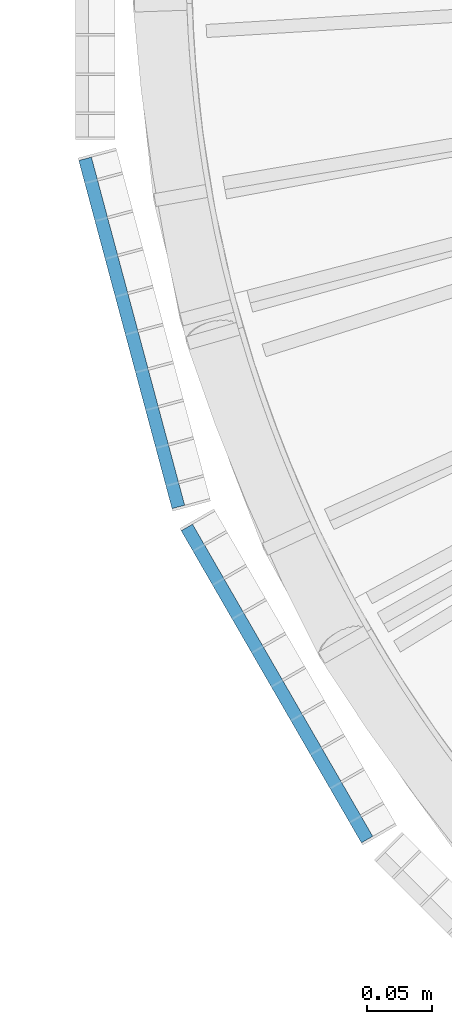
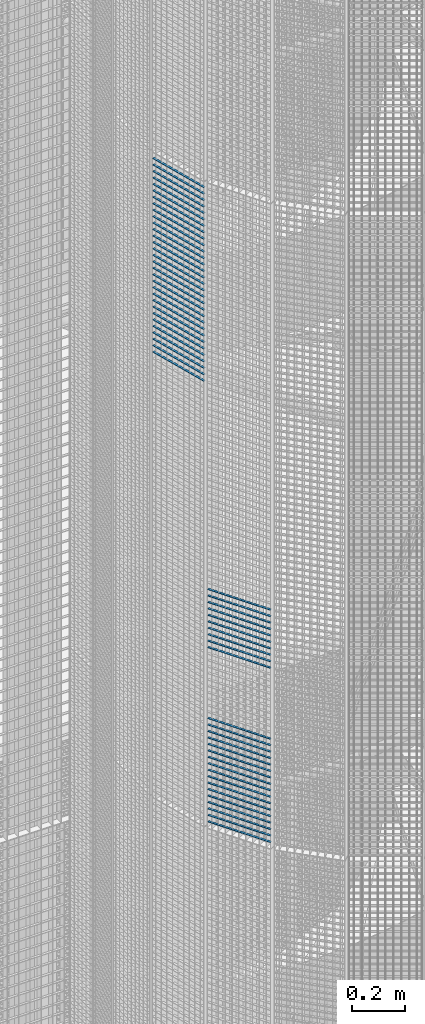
# One storey, part 112 of 1183: 58 beams, 2 elements without a shape of their own.
"""IFC2X3 building model written with IfcOpenShell, lengths in millimetres."""

from ifc_helpers import new_model, si_unit, frame, origin_with_axes, origin_2d_with_axis, place, context, subcontext, project, spatial, rectangle, extrude, material, type_object, element, aggregate, save


model = new_model("IFC2X3")

# Units and contexts
model_context = context("Model", 3, precision=1e-05, world=origin_with_axes())
body_context = subcontext(model_context, "Body", "Model", "MODEL_VIEW")
ifc_project = project(units=[si_unit("LENGTHUNIT", "METRE", prefix="MILLI"), si_unit("AREAUNIT", "SQUARE_METRE"), si_unit("VOLUMEUNIT", "CUBIC_METRE"), si_unit("MASSUNIT", "GRAM", prefix="KILO"), si_unit("TIMEUNIT", "SECOND"), si_unit("PLANEANGLEUNIT", "RADIAN"), si_unit("SOLIDANGLEUNIT", "STERADIAN"), si_unit("THERMODYNAMICTEMPERATUREUNIT", "DEGREE_CELSIUS"), si_unit("LUMINOUSINTENSITYUNIT", "LUMEN")], contexts=[model_context])

# Site, building, storey
site_placement = place(None, origin_with_axes())
site = spatial("IfcSite", under=ifc_project, at=site_placement, Name="Undefined", CompositionType="ELEMENT")
building_placement = place(site_placement, origin_with_axes())
building = spatial("IfcBuilding", under=site, at=building_placement, Name="Undefined", CompositionType="ELEMENT")
storey_placement = place(building_placement, origin_with_axes())
storey = spatial("IfcBuildingStorey", under=building, at=storey_placement, Name="Undefined", CompositionType="ELEMENT", Elevation=0.0)

# Assembly, beams
assembly_1_placement = place(storey_placement, origin_with_axes())
assembly_1 = element("IfcElementAssembly", 1, at=assembly_1_placement, inside=storey, Name="BORDURE", AssemblyPlace="NOTDEFINED", PredefinedType="NOTDEFINED")
ifc_material = material(Name="STEEL/S235JR")
beam_type = type_object("IfcBeamType", Name="PL2*10", PredefinedType="NOTDEFINED")
beam_1_placement = place(assembly_1_placement, frame((-1033.29996828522, -437.231955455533, 12840.0), z_axis=(-0.866025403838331, -0.499999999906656, 0.0), x_axis=(0.499999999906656, -0.866025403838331, 0.0)))
beam_1 = element("IfcBeam", 2, at=beam_1_placement, type_object=beam_type, material=ifc_material, Name="ENTRETOISE", context=body_context, shape_type="SweptSolid", body=[
    extrude(rectangle(XDim=2.0, YDim=10.0, at=origin_2d_with_axis()), frame((275.999999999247, 9.09494701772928e-13, 1.53210777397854e-14), z_axis=(-1.0, 0.0, 0.0), x_axis=(0.0, -1.0, 0.0)), (0.0, 0.0, 1.0), 276.0),
])
beam_2_placement = place(assembly_1_placement, frame((-1033.29996828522, -437.231955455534, 12510.0), z_axis=(-0.866025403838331, -0.499999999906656, 0.0), x_axis=(0.499999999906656, -0.866025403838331, 0.0)))
beam_2 = element("IfcBeam", 3, at=beam_2_placement, type_object=beam_type, material=ifc_material, Name="ENTRETOISE", context=body_context, shape_type="SweptSolid", body=[
    extrude(rectangle(XDim=2.0, YDim=10.0, at=origin_2d_with_axis()), frame((275.999999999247, 9.09494701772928e-13, 1.53210777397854e-14), z_axis=(-1.0, 0.0, 0.0), x_axis=(0.0, -1.0, 0.0)), (0.0, 0.0, 1.0), 276.0),
])
beam_3_placement = place(assembly_1_placement, frame((-1033.29996828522, -437.231955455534, 12480.0), z_axis=(-0.866025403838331, -0.499999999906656, 0.0), x_axis=(0.499999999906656, -0.866025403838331, 0.0)))
beam_3 = element("IfcBeam", 4, at=beam_3_placement, type_object=beam_type, material=ifc_material, Name="ENTRETOISE", context=body_context, shape_type="SweptSolid", body=[
    extrude(rectangle(XDim=2.0, YDim=10.0, at=origin_2d_with_axis()), frame((275.999999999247, 9.09494701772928e-13, 1.53210777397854e-14), z_axis=(-1.0, 0.0, 0.0), x_axis=(0.0, -1.0, 0.0)), (0.0, 0.0, 1.0), 276.0),
])
beam_4_placement = place(assembly_1_placement, frame((-1033.29996828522, -437.231955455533, 12870.0), z_axis=(-0.866025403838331, -0.499999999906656, 0.0), x_axis=(0.499999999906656, -0.866025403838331, 0.0)))
beam_4 = element("IfcBeam", 5, at=beam_4_placement, type_object=beam_type, material=ifc_material, Name="ENTRETOISE", context=body_context, shape_type="SweptSolid", body=[
    extrude(rectangle(XDim=2.0, YDim=10.0, at=origin_2d_with_axis()), frame((275.999999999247, 9.09494701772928e-13, 1.53210777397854e-14), z_axis=(-1.0, 0.0, 0.0), x_axis=(0.0, -1.0, 0.0)), (0.0, 0.0, 1.0), 276.0),
])
beam_5_placement = place(assembly_1_placement, frame((-1033.29996828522, -437.231955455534, 12450.0), z_axis=(-0.866025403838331, -0.499999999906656, 0.0), x_axis=(0.499999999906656, -0.866025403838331, 0.0)))
beam_5 = element("IfcBeam", 6, at=beam_5_placement, type_object=beam_type, material=ifc_material, Name="ENTRETOISE", context=body_context, shape_type="SweptSolid", body=[
    extrude(rectangle(XDim=2.0, YDim=10.0, at=origin_2d_with_axis()), frame((275.999999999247, 9.09494701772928e-13, 1.53210777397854e-14), z_axis=(-1.0, 0.0, 0.0), x_axis=(0.0, -1.0, 0.0)), (0.0, 0.0, 1.0), 276.0),
])
beam_6_placement = place(assembly_1_placement, frame((-1033.29996828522, -437.231955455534, 12420.0), z_axis=(-0.866025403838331, -0.499999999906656, 0.0), x_axis=(0.499999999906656, -0.866025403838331, 0.0)))
beam_6 = element("IfcBeam", 7, at=beam_6_placement, type_object=beam_type, material=ifc_material, Name="ENTRETOISE", context=body_context, shape_type="SweptSolid", body=[
    extrude(rectangle(XDim=2.0, YDim=10.0, at=origin_2d_with_axis()), frame((275.999999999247, 9.09494701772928e-13, 1.53210777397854e-14), z_axis=(-1.0, 0.0, 0.0), x_axis=(0.0, -1.0, 0.0)), (0.0, 0.0, 1.0), 276.0),
])
beam_7_placement = place(assembly_1_placement, frame((-1033.29996828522, -437.231955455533, 12900.0), z_axis=(-0.866025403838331, -0.499999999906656, 0.0), x_axis=(0.499999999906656, -0.866025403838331, 0.0)))
beam_7 = element("IfcBeam", 8, at=beam_7_placement, type_object=beam_type, material=ifc_material, Name="ENTRETOISE", context=body_context, shape_type="SweptSolid", body=[
    extrude(rectangle(XDim=2.0, YDim=10.0, at=origin_2d_with_axis()), frame((275.999999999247, 9.09494701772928e-13, 1.53210777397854e-14), z_axis=(-1.0, 0.0, 0.0), x_axis=(0.0, -1.0, 0.0)), (0.0, 0.0, 1.0), 276.0),
])
beam_8_placement = place(assembly_1_placement, frame((-1033.29996828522, -437.231955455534, 12390.0), z_axis=(-0.866025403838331, -0.499999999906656, 0.0), x_axis=(0.499999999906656, -0.866025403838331, 0.0)))
beam_8 = element("IfcBeam", 9, at=beam_8_placement, type_object=beam_type, material=ifc_material, Name="ENTRETOISE", context=body_context, shape_type="SweptSolid", body=[
    extrude(rectangle(XDim=2.0, YDim=10.0, at=origin_2d_with_axis()), frame((275.999999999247, 9.09494701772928e-13, 1.53210777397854e-14), z_axis=(-1.0, 0.0, 0.0), x_axis=(0.0, -1.0, 0.0)), (0.0, 0.0, 1.0), 276.0),
])
beam_9_placement = place(assembly_1_placement, frame((-1033.29996828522, -437.231955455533, 12930.0), z_axis=(-0.866025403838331, -0.499999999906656, 0.0), x_axis=(0.499999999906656, -0.866025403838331, 0.0)))
beam_9 = element("IfcBeam", 10, at=beam_9_placement, type_object=beam_type, material=ifc_material, Name="ENTRETOISE", context=body_context, shape_type="SweptSolid", body=[
    extrude(rectangle(XDim=2.0, YDim=10.0, at=origin_2d_with_axis()), frame((275.999999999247, 9.09494701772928e-13, 1.53210777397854e-14), z_axis=(-1.0, 0.0, 0.0), x_axis=(0.0, -1.0, 0.0)), (0.0, 0.0, 1.0), 276.0),
])
beam_10_placement = place(assembly_1_placement, frame((-1033.29996828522, -437.231955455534, 12360.0), z_axis=(-0.866025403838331, -0.499999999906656, 0.0), x_axis=(0.499999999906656, -0.866025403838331, 0.0)))
beam_10 = element("IfcBeam", 11, at=beam_10_placement, type_object=beam_type, material=ifc_material, Name="ENTRETOISE", context=body_context, shape_type="SweptSolid", body=[
    extrude(rectangle(XDim=2.0, YDim=10.0, at=origin_2d_with_axis()), frame((275.999999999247, 9.09494701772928e-13, 1.53210777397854e-14), z_axis=(-1.0, 0.0, 0.0), x_axis=(0.0, -1.0, 0.0)), (0.0, 0.0, 1.0), 276.0),
])
beam_11_placement = place(assembly_1_placement, frame((-1033.29996828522, -437.231955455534, 12330.0), z_axis=(-0.866025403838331, -0.499999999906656, 0.0), x_axis=(0.499999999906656, -0.866025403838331, 0.0)))
beam_11 = element("IfcBeam", 12, at=beam_11_placement, type_object=beam_type, material=ifc_material, Name="ENTRETOISE", context=body_context, shape_type="SweptSolid", body=[
    extrude(rectangle(XDim=2.0, YDim=10.0, at=origin_2d_with_axis()), frame((275.999999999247, 9.09494701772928e-13, 1.53210777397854e-14), z_axis=(-1.0, 0.0, 0.0), x_axis=(0.0, -1.0, 0.0)), (0.0, 0.0, 1.0), 276.0),
])
beam_12_placement = place(assembly_1_placement, frame((-1033.29996828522, -437.231955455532, 12960.0), z_axis=(-0.866025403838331, -0.499999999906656, 0.0), x_axis=(0.499999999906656, -0.866025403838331, 0.0)))
beam_12 = element("IfcBeam", 13, at=beam_12_placement, type_object=beam_type, material=ifc_material, Name="ENTRETOISE", context=body_context, shape_type="SweptSolid", body=[
    extrude(rectangle(XDim=2.0, YDim=10.0, at=origin_2d_with_axis()), frame((275.999999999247, 9.09494701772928e-13, 1.53210777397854e-14), z_axis=(-1.0, 0.0, 0.0), x_axis=(0.0, -1.0, 0.0)), (0.0, 0.0, 1.0), 276.0),
])
beam_13_placement = place(assembly_1_placement, frame((-1033.29996828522, -437.231955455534, 12300.0), z_axis=(-0.866025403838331, -0.499999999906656, 0.0), x_axis=(0.499999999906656, -0.866025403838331, 0.0)))
beam_13 = element("IfcBeam", 14, at=beam_13_placement, type_object=beam_type, material=ifc_material, Name="ENTRETOISE", context=body_context, shape_type="SweptSolid", body=[
    extrude(rectangle(XDim=2.0, YDim=10.0, at=origin_2d_with_axis()), frame((275.999999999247, 9.09494701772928e-13, 1.53210777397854e-14), z_axis=(-1.0, 0.0, 0.0), x_axis=(0.0, -1.0, 0.0)), (0.0, 0.0, 1.0), 276.0),
])
beam_14_placement = place(assembly_1_placement, frame((-1033.29996828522, -437.231955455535, 12270.0), z_axis=(-0.866025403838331, -0.499999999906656, 0.0), x_axis=(0.499999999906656, -0.866025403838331, 0.0)))
beam_14 = element("IfcBeam", 15, at=beam_14_placement, type_object=beam_type, material=ifc_material, Name="ENTRETOISE", context=body_context, shape_type="SweptSolid", body=[
    extrude(rectangle(XDim=2.0, YDim=10.0, at=origin_2d_with_axis()), frame((275.999999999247, 9.09494701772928e-13, 1.53210777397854e-14), z_axis=(-1.0, 0.0, 0.0), x_axis=(0.0, -1.0, 0.0)), (0.0, 0.0, 1.0), 276.0),
])
beam_15_placement = place(assembly_1_placement, frame((-1033.29996828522, -437.231955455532, 12990.0), z_axis=(-0.866025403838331, -0.499999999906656, 0.0), x_axis=(0.499999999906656, -0.866025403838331, 0.0)))
beam_15 = element("IfcBeam", 16, at=beam_15_placement, type_object=beam_type, material=ifc_material, Name="ENTRETOISE", context=body_context, shape_type="SweptSolid", body=[
    extrude(rectangle(XDim=2.0, YDim=10.0, at=origin_2d_with_axis()), frame((275.999999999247, 9.09494701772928e-13, 1.53210777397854e-14), z_axis=(-1.0, 0.0, 0.0), x_axis=(0.0, -1.0, 0.0)), (0.0, 0.0, 1.0), 276.0),
])
beam_16_placement = place(assembly_1_placement, frame((-1033.29996828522, -437.231955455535, 12240.0), z_axis=(-0.866025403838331, -0.499999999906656, 0.0), x_axis=(0.499999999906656, -0.866025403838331, 0.0)))
beam_16 = element("IfcBeam", 17, at=beam_16_placement, type_object=beam_type, material=ifc_material, Name="ENTRETOISE", context=body_context, shape_type="SweptSolid", body=[
    extrude(rectangle(XDim=2.0, YDim=10.0, at=origin_2d_with_axis()), frame((275.999999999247, 9.09494701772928e-13, 1.53210777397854e-14), z_axis=(-1.0, 0.0, 0.0), x_axis=(0.0, -1.0, 0.0)), (0.0, 0.0, 1.0), 276.0),
])
beam_17_placement = place(assembly_1_placement, frame((-1033.29996828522, -437.231955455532, 13020.0), z_axis=(-0.866025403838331, -0.499999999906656, 0.0), x_axis=(0.499999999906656, -0.866025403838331, 0.0)))
beam_17 = element("IfcBeam", 18, at=beam_17_placement, type_object=beam_type, material=ifc_material, Name="ENTRETOISE", context=body_context, shape_type="SweptSolid", body=[
    extrude(rectangle(XDim=2.0, YDim=10.0, at=origin_2d_with_axis()), frame((275.999999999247, 9.09494701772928e-13, 1.53210777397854e-14), z_axis=(-1.0, 0.0, 0.0), x_axis=(0.0, -1.0, 0.0)), (0.0, 0.0, 1.0), 276.0),
])
beam_18_placement = place(assembly_1_placement, frame((-1033.29996828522, -437.231955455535, 12210.0), z_axis=(-0.866025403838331, -0.499999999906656, 0.0), x_axis=(0.499999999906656, -0.866025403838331, 0.0)))
beam_18 = element("IfcBeam", 19, at=beam_18_placement, type_object=beam_type, material=ifc_material, Name="ENTRETOISE", context=body_context, shape_type="SweptSolid", body=[
    extrude(rectangle(XDim=2.0, YDim=10.0, at=origin_2d_with_axis()), frame((275.999999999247, 9.09494701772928e-13, 1.53210777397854e-14), z_axis=(-1.0, 0.0, 0.0), x_axis=(0.0, -1.0, 0.0)), (0.0, 0.0, 1.0), 276.0),
])
beam_19_placement = place(assembly_1_placement, frame((-1033.29996828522, -437.231955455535, 12180.0), z_axis=(-0.866025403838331, -0.499999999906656, 0.0), x_axis=(0.499999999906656, -0.866025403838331, 0.0)))
beam_19 = element("IfcBeam", 20, at=beam_19_placement, type_object=beam_type, material=ifc_material, Name="ENTRETOISE", context=body_context, shape_type="SweptSolid", body=[
    extrude(rectangle(XDim=2.0, YDim=10.0, at=origin_2d_with_axis()), frame((275.999999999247, 9.09494701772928e-13, 1.53210777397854e-14), z_axis=(-1.0, 0.0, 0.0), x_axis=(0.0, -1.0, 0.0)), (0.0, 0.0, 1.0), 276.0),
])
beam_20_placement = place(assembly_1_placement, frame((-1033.29996828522, -437.231955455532, 13050.0), z_axis=(-0.866025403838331, -0.499999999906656, 0.0), x_axis=(0.499999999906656, -0.866025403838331, 0.0)))
beam_20 = element("IfcBeam", 21, at=beam_20_placement, type_object=beam_type, material=ifc_material, Name="ENTRETOISE", context=body_context, shape_type="SweptSolid", body=[
    extrude(rectangle(XDim=2.0, YDim=10.0, at=origin_2d_with_axis()), frame((275.999999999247, 9.09494701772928e-13, 1.53210777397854e-14), z_axis=(-1.0, 0.0, 0.0), x_axis=(0.0, -1.0, 0.0)), (0.0, 0.0, 1.0), 276.0),
])
beam_21_placement = place(assembly_1_placement, frame((-1033.29996828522, -437.231955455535, 12150.0), z_axis=(-0.866025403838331, -0.499999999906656, 0.0), x_axis=(0.499999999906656, -0.866025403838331, 0.0)))
beam_21 = element("IfcBeam", 22, at=beam_21_placement, type_object=beam_type, material=ifc_material, Name="ENTRETOISE", context=body_context, shape_type="SweptSolid", body=[
    extrude(rectangle(XDim=2.0, YDim=10.0, at=origin_2d_with_axis()), frame((275.999999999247, 9.09494701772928e-13, 1.53210777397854e-14), z_axis=(-1.0, 0.0, 0.0), x_axis=(0.0, -1.0, 0.0)), (0.0, 0.0, 1.0), 276.0),
])
beam_22_placement = place(assembly_1_placement, frame((-1033.29996828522, -437.231955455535, 12120.0), z_axis=(-0.866025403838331, -0.499999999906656, 0.0), x_axis=(0.499999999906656, -0.866025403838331, 0.0)))
beam_22 = element("IfcBeam", 23, at=beam_22_placement, type_object=beam_type, material=ifc_material, Name="ENTRETOISE", context=body_context, shape_type="SweptSolid", body=[
    extrude(rectangle(XDim=2.0, YDim=10.0, at=origin_2d_with_axis()), frame((275.999999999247, 9.09494701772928e-13, 1.53210777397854e-14), z_axis=(-1.0, 0.0, 0.0), x_axis=(0.0, -1.0, 0.0)), (0.0, 0.0, 1.0), 276.0),
])
beam_23_placement = place(assembly_1_placement, frame((-1033.29996828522, -437.231955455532, 13080.0), z_axis=(-0.866025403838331, -0.499999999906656, 0.0), x_axis=(0.499999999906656, -0.866025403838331, 0.0)))
beam_23 = element("IfcBeam", 24, at=beam_23_placement, type_object=beam_type, material=ifc_material, Name="ENTRETOISE", context=body_context, shape_type="SweptSolid", body=[
    extrude(rectangle(XDim=2.0, YDim=10.0, at=origin_2d_with_axis()), frame((275.999999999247, 9.09494701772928e-13, 1.53210777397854e-14), z_axis=(-1.0, 0.0, 0.0), x_axis=(0.0, -1.0, 0.0)), (0.0, 0.0, 1.0), 276.0),
])
beam_24_placement = place(assembly_1_placement, frame((-1033.29996828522, -437.231955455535, 12090.0), z_axis=(-0.866025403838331, -0.499999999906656, 0.0), x_axis=(0.499999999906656, -0.866025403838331, 0.0)))
beam_24 = element("IfcBeam", 25, at=beam_24_placement, type_object=beam_type, material=ifc_material, Name="ENTRETOISE", context=body_context, shape_type="SweptSolid", body=[
    extrude(rectangle(XDim=2.0, YDim=10.0, at=origin_2d_with_axis()), frame((275.999999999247, 9.09494701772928e-13, 1.53210777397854e-14), z_axis=(-1.0, 0.0, 0.0), x_axis=(0.0, -1.0, 0.0)), (0.0, 0.0, 1.0), 276.0),
])
beam_25_placement = place(assembly_1_placement, frame((-1033.29996828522, -437.231955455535, 12060.0), z_axis=(-0.866025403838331, -0.499999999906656, 0.0), x_axis=(0.499999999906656, -0.866025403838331, 0.0)))
beam_25 = element("IfcBeam", 26, at=beam_25_placement, type_object=beam_type, material=ifc_material, Name="ENTRETOISE", context=body_context, shape_type="SweptSolid", body=[
    extrude(rectangle(XDim=2.0, YDim=10.0, at=origin_2d_with_axis()), frame((275.999999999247, 9.09494701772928e-13, 1.53210777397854e-14), z_axis=(-1.0, 0.0, 0.0), x_axis=(0.0, -1.0, 0.0)), (0.0, 0.0, 1.0), 276.0),
])
beam_26_placement = place(assembly_1_placement, frame((-1033.29996828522, -437.231955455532, 13110.0), z_axis=(-0.866025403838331, -0.499999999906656, 0.0), x_axis=(0.499999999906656, -0.866025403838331, 0.0)))
beam_26 = element("IfcBeam", 27, at=beam_26_placement, type_object=beam_type, material=ifc_material, Name="ENTRETOISE", context=body_context, shape_type="SweptSolid", body=[
    extrude(rectangle(XDim=2.0, YDim=10.0, at=origin_2d_with_axis()), frame((275.999999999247, 9.09494701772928e-13, 1.53210777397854e-14), z_axis=(-1.0, 0.0, 0.0), x_axis=(0.0, -1.0, 0.0)), (0.0, 0.0, 1.0), 276.0),
])
beam_27_placement = place(assembly_1_placement, frame((-1033.29996828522, -437.231955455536, 12030.0), z_axis=(-0.866025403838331, -0.499999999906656, 0.0), x_axis=(0.499999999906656, -0.866025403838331, 0.0)))
beam_27 = element("IfcBeam", 28, at=beam_27_placement, type_object=beam_type, material=ifc_material, Name="ENTRETOISE", context=body_context, shape_type="SweptSolid", body=[
    extrude(rectangle(XDim=2.0, YDim=10.0, at=origin_2d_with_axis()), frame((275.999999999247, 9.09494701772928e-13, 1.53210777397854e-14), z_axis=(-1.0, 0.0, 0.0), x_axis=(0.0, -1.0, 0.0)), (0.0, 0.0, 1.0), 276.0),
])
aggregate(assembly_1, [beam_1, beam_2, beam_3, beam_4, beam_5, beam_6, beam_7, beam_8, beam_9, beam_10, beam_11, beam_12, beam_13, beam_14, beam_15, beam_16, beam_17, beam_18, beam_19, beam_20, beam_21, beam_22, beam_23, beam_24, beam_25, beam_26, beam_27])

assembly_2_placement = place(storey_placement, origin_with_axes())
assembly_2 = element("IfcElementAssembly", 29, at=assembly_2_placement, inside=storey, Name="BORDURE", AssemblyPlace="NOTDEFINED", PredefinedType="NOTDEFINED")
beam_28_placement = place(assembly_2_placement, frame((-1111.25508286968, -154.895926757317, 14970.0), z_axis=(-0.965925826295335, -0.258819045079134, 0.0), x_axis=(0.258819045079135, -0.965925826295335, 0.0)))
beam_28 = element("IfcBeam", 30, at=beam_28_placement, type_object=beam_type, material=ifc_material, Name="ENTRETOISE", context=body_context, shape_type="SweptSolid", body=[
    extrude(rectangle(XDim=2.0, YDim=10.0, at=origin_2d_with_axis()), frame((275.999999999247, 9.09494701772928e-13, 1.53210777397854e-14), z_axis=(-1.0, 0.0, 0.0), x_axis=(0.0, -1.0, 0.0)), (0.0, 0.0, 1.0), 276.0),
])
beam_29_placement = place(assembly_2_placement, frame((-1111.25508286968, -154.895926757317, 14940.0), z_axis=(-0.965925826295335, -0.258819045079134, 0.0), x_axis=(0.258819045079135, -0.965925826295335, 0.0)))
beam_29 = element("IfcBeam", 31, at=beam_29_placement, type_object=beam_type, material=ifc_material, Name="ENTRETOISE", context=body_context, shape_type="SweptSolid", body=[
    extrude(rectangle(XDim=2.0, YDim=10.0, at=origin_2d_with_axis()), frame((275.999999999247, 9.09494701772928e-13, 1.53210777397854e-14), z_axis=(-1.0, 0.0, 0.0), x_axis=(0.0, -1.0, 0.0)), (0.0, 0.0, 1.0), 276.0),
])
beam_30_placement = place(assembly_2_placement, frame((-1111.25508286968, -154.895926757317, 14910.0), z_axis=(-0.965925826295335, -0.258819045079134, 0.0), x_axis=(0.258819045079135, -0.965925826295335, 0.0)))
beam_30 = element("IfcBeam", 32, at=beam_30_placement, type_object=beam_type, material=ifc_material, Name="ENTRETOISE", context=body_context, shape_type="SweptSolid", body=[
    extrude(rectangle(XDim=2.0, YDim=10.0, at=origin_2d_with_axis()), frame((275.999999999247, 9.09494701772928e-13, 1.53210777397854e-14), z_axis=(-1.0, 0.0, 0.0), x_axis=(0.0, -1.0, 0.0)), (0.0, 0.0, 1.0), 276.0),
])
beam_31_placement = place(assembly_2_placement, frame((-1111.25508286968, -154.895926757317, 14880.0), z_axis=(-0.965925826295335, -0.258819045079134, 0.0), x_axis=(0.258819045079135, -0.965925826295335, 0.0)))
beam_31 = element("IfcBeam", 33, at=beam_31_placement, type_object=beam_type, material=ifc_material, Name="ENTRETOISE", context=body_context, shape_type="SweptSolid", body=[
    extrude(rectangle(XDim=2.0, YDim=10.0, at=origin_2d_with_axis()), frame((275.999999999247, 9.09494701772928e-13, 1.53210777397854e-14), z_axis=(-1.0, 0.0, 0.0), x_axis=(0.0, -1.0, 0.0)), (0.0, 0.0, 1.0), 276.0),
])
beam_32_placement = place(assembly_2_placement, frame((-1111.25508286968, -154.895926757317, 14850.0), z_axis=(-0.965925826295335, -0.258819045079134, 0.0), x_axis=(0.258819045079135, -0.965925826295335, 0.0)))
beam_32 = element("IfcBeam", 34, at=beam_32_placement, type_object=beam_type, material=ifc_material, Name="ENTRETOISE", context=body_context, shape_type="SweptSolid", body=[
    extrude(rectangle(XDim=2.0, YDim=10.0, at=origin_2d_with_axis()), frame((275.999999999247, 9.09494701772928e-13, 1.53210777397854e-14), z_axis=(-1.0, 0.0, 0.0), x_axis=(0.0, -1.0, 0.0)), (0.0, 0.0, 1.0), 276.0),
])
beam_33_placement = place(assembly_2_placement, frame((-1111.25508286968, -154.895926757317, 14820.0), z_axis=(-0.965925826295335, -0.258819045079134, 0.0), x_axis=(0.258819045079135, -0.965925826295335, 0.0)))
beam_33 = element("IfcBeam", 35, at=beam_33_placement, type_object=beam_type, material=ifc_material, Name="ENTRETOISE", context=body_context, shape_type="SweptSolid", body=[
    extrude(rectangle(XDim=2.0, YDim=10.0, at=origin_2d_with_axis()), frame((275.999999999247, 9.09494701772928e-13, 1.53210777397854e-14), z_axis=(-1.0, 0.0, 0.0), x_axis=(0.0, -1.0, 0.0)), (0.0, 0.0, 1.0), 276.0),
])
beam_34_placement = place(assembly_2_placement, frame((-1111.25508286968, -154.895926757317, 14790.0), z_axis=(-0.965925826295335, -0.258819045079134, 0.0), x_axis=(0.258819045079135, -0.965925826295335, 0.0)))
beam_34 = element("IfcBeam", 36, at=beam_34_placement, type_object=beam_type, material=ifc_material, Name="ENTRETOISE", context=body_context, shape_type="SweptSolid", body=[
    extrude(rectangle(XDim=2.0, YDim=10.0, at=origin_2d_with_axis()), frame((275.999999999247, 9.09494701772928e-13, 1.53210777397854e-14), z_axis=(-1.0, 0.0, 0.0), x_axis=(0.0, -1.0, 0.0)), (0.0, 0.0, 1.0), 276.0),
])
beam_35_placement = place(assembly_2_placement, frame((-1111.25508286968, -154.895926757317, 14760.0), z_axis=(-0.965925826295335, -0.258819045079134, 0.0), x_axis=(0.258819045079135, -0.965925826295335, 0.0)))
beam_35 = element("IfcBeam", 37, at=beam_35_placement, type_object=beam_type, material=ifc_material, Name="ENTRETOISE", context=body_context, shape_type="SweptSolid", body=[
    extrude(rectangle(XDim=2.0, YDim=10.0, at=origin_2d_with_axis()), frame((275.999999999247, 9.09494701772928e-13, 1.53210777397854e-14), z_axis=(-1.0, 0.0, 0.0), x_axis=(0.0, -1.0, 0.0)), (0.0, 0.0, 1.0), 276.0),
])
beam_36_placement = place(assembly_2_placement, frame((-1111.25508286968, -154.895926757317, 14730.0), z_axis=(-0.965925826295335, -0.258819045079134, 0.0), x_axis=(0.258819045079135, -0.965925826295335, 0.0)))
beam_36 = element("IfcBeam", 38, at=beam_36_placement, type_object=beam_type, material=ifc_material, Name="ENTRETOISE", context=body_context, shape_type="SweptSolid", body=[
    extrude(rectangle(XDim=2.0, YDim=10.0, at=origin_2d_with_axis()), frame((275.999999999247, 9.09494701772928e-13, 1.53210777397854e-14), z_axis=(-1.0, 0.0, 0.0), x_axis=(0.0, -1.0, 0.0)), (0.0, 0.0, 1.0), 276.0),
])
beam_37_placement = place(assembly_2_placement, frame((-1111.25508286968, -154.895926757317, 14700.0), z_axis=(-0.965925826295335, -0.258819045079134, 0.0), x_axis=(0.258819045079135, -0.965925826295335, 0.0)))
beam_37 = element("IfcBeam", 39, at=beam_37_placement, type_object=beam_type, material=ifc_material, Name="ENTRETOISE", context=body_context, shape_type="SweptSolid", body=[
    extrude(rectangle(XDim=2.0, YDim=10.0, at=origin_2d_with_axis()), frame((275.999999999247, 9.09494701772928e-13, 1.53210777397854e-14), z_axis=(-1.0, 0.0, 0.0), x_axis=(0.0, -1.0, 0.0)), (0.0, 0.0, 1.0), 276.0),
])
beam_38_placement = place(assembly_2_placement, frame((-1111.25508286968, -154.895926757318, 14670.0), z_axis=(-0.965925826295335, -0.258819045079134, 0.0), x_axis=(0.258819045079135, -0.965925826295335, 0.0)))
beam_38 = element("IfcBeam", 40, at=beam_38_placement, type_object=beam_type, material=ifc_material, Name="ENTRETOISE", context=body_context, shape_type="SweptSolid", body=[
    extrude(rectangle(XDim=2.0, YDim=10.0, at=origin_2d_with_axis()), frame((275.999999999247, 9.09494701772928e-13, 1.53210777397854e-14), z_axis=(-1.0, 0.0, 0.0), x_axis=(0.0, -1.0, 0.0)), (0.0, 0.0, 1.0), 276.0),
])
beam_39_placement = place(assembly_2_placement, frame((-1111.25508286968, -154.895926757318, 14640.0), z_axis=(-0.965925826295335, -0.258819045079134, 0.0), x_axis=(0.258819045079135, -0.965925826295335, 0.0)))
beam_39 = element("IfcBeam", 41, at=beam_39_placement, type_object=beam_type, material=ifc_material, Name="ENTRETOISE", context=body_context, shape_type="SweptSolid", body=[
    extrude(rectangle(XDim=2.0, YDim=10.0, at=origin_2d_with_axis()), frame((275.999999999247, 9.09494701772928e-13, 1.53210777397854e-14), z_axis=(-1.0, 0.0, 0.0), x_axis=(0.0, -1.0, 0.0)), (0.0, 0.0, 1.0), 276.0),
])
beam_40_placement = place(assembly_2_placement, frame((-1111.25508286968, -154.895926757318, 14610.0), z_axis=(-0.965925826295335, -0.258819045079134, 0.0), x_axis=(0.258819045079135, -0.965925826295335, 0.0)))
beam_40 = element("IfcBeam", 42, at=beam_40_placement, type_object=beam_type, material=ifc_material, Name="ENTRETOISE", context=body_context, shape_type="SweptSolid", body=[
    extrude(rectangle(XDim=2.0, YDim=10.0, at=origin_2d_with_axis()), frame((275.999999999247, 9.09494701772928e-13, 1.53210777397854e-14), z_axis=(-1.0, 0.0, 0.0), x_axis=(0.0, -1.0, 0.0)), (0.0, 0.0, 1.0), 276.0),
])
beam_41_placement = place(assembly_2_placement, frame((-1111.25508286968, -154.895926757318, 14580.0), z_axis=(-0.965925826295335, -0.258819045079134, 0.0), x_axis=(0.258819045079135, -0.965925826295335, 0.0)))
beam_41 = element("IfcBeam", 43, at=beam_41_placement, type_object=beam_type, material=ifc_material, Name="ENTRETOISE", context=body_context, shape_type="SweptSolid", body=[
    extrude(rectangle(XDim=2.0, YDim=10.0, at=origin_2d_with_axis()), frame((275.999999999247, 9.09494701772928e-13, 1.53210777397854e-14), z_axis=(-1.0, 0.0, 0.0), x_axis=(0.0, -1.0, 0.0)), (0.0, 0.0, 1.0), 276.0),
])
beam_42_placement = place(assembly_2_placement, frame((-1111.25508286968, -154.895926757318, 14550.0), z_axis=(-0.965925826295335, -0.258819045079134, 0.0), x_axis=(0.258819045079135, -0.965925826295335, 0.0)))
beam_42 = element("IfcBeam", 44, at=beam_42_placement, type_object=beam_type, material=ifc_material, Name="ENTRETOISE", context=body_context, shape_type="SweptSolid", body=[
    extrude(rectangle(XDim=2.0, YDim=10.0, at=origin_2d_with_axis()), frame((275.999999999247, 9.09494701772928e-13, 1.53210777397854e-14), z_axis=(-1.0, 0.0, 0.0), x_axis=(0.0, -1.0, 0.0)), (0.0, 0.0, 1.0), 276.0),
])
beam_43_placement = place(assembly_2_placement, frame((-1111.25508286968, -154.895926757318, 14520.0), z_axis=(-0.965925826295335, -0.258819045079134, 0.0), x_axis=(0.258819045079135, -0.965925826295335, 0.0)))
beam_43 = element("IfcBeam", 45, at=beam_43_placement, type_object=beam_type, material=ifc_material, Name="ENTRETOISE", context=body_context, shape_type="SweptSolid", body=[
    extrude(rectangle(XDim=2.0, YDim=10.0, at=origin_2d_with_axis()), frame((275.999999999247, 9.09494701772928e-13, 1.53210777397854e-14), z_axis=(-1.0, 0.0, 0.0), x_axis=(0.0, -1.0, 0.0)), (0.0, 0.0, 1.0), 276.0),
])
beam_44_placement = place(assembly_2_placement, frame((-1111.25508286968, -154.895926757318, 14490.0), z_axis=(-0.965925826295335, -0.258819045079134, 0.0), x_axis=(0.258819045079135, -0.965925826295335, 0.0)))
beam_44 = element("IfcBeam", 46, at=beam_44_placement, type_object=beam_type, material=ifc_material, Name="ENTRETOISE", context=body_context, shape_type="SweptSolid", body=[
    extrude(rectangle(XDim=2.0, YDim=10.0, at=origin_2d_with_axis()), frame((275.999999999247, 9.09494701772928e-13, 1.53210777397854e-14), z_axis=(-1.0, 0.0, 0.0), x_axis=(0.0, -1.0, 0.0)), (0.0, 0.0, 1.0), 276.0),
])
beam_45_placement = place(assembly_2_placement, frame((-1111.25508286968, -154.895926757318, 14460.0), z_axis=(-0.965925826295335, -0.258819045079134, 0.0), x_axis=(0.258819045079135, -0.965925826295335, 0.0)))
beam_45 = element("IfcBeam", 47, at=beam_45_placement, type_object=beam_type, material=ifc_material, Name="ENTRETOISE", context=body_context, shape_type="SweptSolid", body=[
    extrude(rectangle(XDim=2.0, YDim=10.0, at=origin_2d_with_axis()), frame((275.999999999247, 9.09494701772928e-13, 1.53210777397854e-14), z_axis=(-1.0, 0.0, 0.0), x_axis=(0.0, -1.0, 0.0)), (0.0, 0.0, 1.0), 276.0),
])
beam_46_placement = place(assembly_2_placement, frame((-1111.25508286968, -154.895926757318, 14430.0), z_axis=(-0.965925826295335, -0.258819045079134, 0.0), x_axis=(0.258819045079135, -0.965925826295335, 0.0)))
beam_46 = element("IfcBeam", 48, at=beam_46_placement, type_object=beam_type, material=ifc_material, Name="ENTRETOISE", context=body_context, shape_type="SweptSolid", body=[
    extrude(rectangle(XDim=2.0, YDim=10.0, at=origin_2d_with_axis()), frame((275.999999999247, 9.09494701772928e-13, 1.53210777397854e-14), z_axis=(-1.0, 0.0, 0.0), x_axis=(0.0, -1.0, 0.0)), (0.0, 0.0, 1.0), 276.0),
])
beam_47_placement = place(assembly_2_placement, frame((-1111.25508286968, -154.895926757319, 14400.0), z_axis=(-0.965925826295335, -0.258819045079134, 0.0), x_axis=(0.258819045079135, -0.965925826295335, 0.0)))
beam_47 = element("IfcBeam", 49, at=beam_47_placement, type_object=beam_type, material=ifc_material, Name="ENTRETOISE", context=body_context, shape_type="SweptSolid", body=[
    extrude(rectangle(XDim=2.0, YDim=10.0, at=origin_2d_with_axis()), frame((275.999999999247, 9.09494701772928e-13, 1.53210777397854e-14), z_axis=(-1.0, 0.0, 0.0), x_axis=(0.0, -1.0, 0.0)), (0.0, 0.0, 1.0), 276.0),
])
beam_48_placement = place(assembly_2_placement, frame((-1111.25508286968, -154.895926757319, 14370.0), z_axis=(-0.965925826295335, -0.258819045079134, 0.0), x_axis=(0.258819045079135, -0.965925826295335, 0.0)))
beam_48 = element("IfcBeam", 50, at=beam_48_placement, type_object=beam_type, material=ifc_material, Name="ENTRETOISE", context=body_context, shape_type="SweptSolid", body=[
    extrude(rectangle(XDim=2.0, YDim=10.0, at=origin_2d_with_axis()), frame((275.999999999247, 9.09494701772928e-13, 1.53210777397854e-14), z_axis=(-1.0, 0.0, 0.0), x_axis=(0.0, -1.0, 0.0)), (0.0, 0.0, 1.0), 276.0),
])
beam_49_placement = place(assembly_2_placement, frame((-1111.25508286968, -154.895926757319, 14340.0), z_axis=(-0.965925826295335, -0.258819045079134, 0.0), x_axis=(0.258819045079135, -0.965925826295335, 0.0)))
beam_49 = element("IfcBeam", 51, at=beam_49_placement, type_object=beam_type, material=ifc_material, Name="ENTRETOISE", context=body_context, shape_type="SweptSolid", body=[
    extrude(rectangle(XDim=2.0, YDim=10.0, at=origin_2d_with_axis()), frame((275.999999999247, 9.09494701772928e-13, 1.53210777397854e-14), z_axis=(-1.0, 0.0, 0.0), x_axis=(0.0, -1.0, 0.0)), (0.0, 0.0, 1.0), 276.0),
])
beam_50_placement = place(assembly_2_placement, frame((-1111.25508286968, -154.895926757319, 14310.0), z_axis=(-0.965925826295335, -0.258819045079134, 0.0), x_axis=(0.258819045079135, -0.965925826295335, 0.0)))
beam_50 = element("IfcBeam", 52, at=beam_50_placement, type_object=beam_type, material=ifc_material, Name="ENTRETOISE", context=body_context, shape_type="SweptSolid", body=[
    extrude(rectangle(XDim=2.0, YDim=10.0, at=origin_2d_with_axis()), frame((275.999999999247, 9.09494701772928e-13, 1.53210777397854e-14), z_axis=(-1.0, 0.0, 0.0), x_axis=(0.0, -1.0, 0.0)), (0.0, 0.0, 1.0), 276.0),
])
beam_51_placement = place(assembly_2_placement, frame((-1111.25508286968, -154.895926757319, 14280.0), z_axis=(-0.965925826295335, -0.258819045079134, 0.0), x_axis=(0.258819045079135, -0.965925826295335, 0.0)))
beam_51 = element("IfcBeam", 53, at=beam_51_placement, type_object=beam_type, material=ifc_material, Name="ENTRETOISE", context=body_context, shape_type="SweptSolid", body=[
    extrude(rectangle(XDim=2.0, YDim=10.0, at=origin_2d_with_axis()), frame((275.999999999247, 9.09494701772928e-13, 1.53210777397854e-14), z_axis=(-1.0, 0.0, 0.0), x_axis=(0.0, -1.0, 0.0)), (0.0, 0.0, 1.0), 276.0),
])
beam_52_placement = place(assembly_2_placement, frame((-1111.25508286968, -154.895926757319, 14250.0), z_axis=(-0.965925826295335, -0.258819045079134, 0.0), x_axis=(0.258819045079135, -0.965925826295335, 0.0)))
beam_52 = element("IfcBeam", 54, at=beam_52_placement, type_object=beam_type, material=ifc_material, Name="ENTRETOISE", context=body_context, shape_type="SweptSolid", body=[
    extrude(rectangle(XDim=2.0, YDim=10.0, at=origin_2d_with_axis()), frame((275.999999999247, 9.09494701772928e-13, 1.53210777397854e-14), z_axis=(-1.0, 0.0, 0.0), x_axis=(0.0, -1.0, 0.0)), (0.0, 0.0, 1.0), 276.0),
])
beam_53_placement = place(assembly_2_placement, frame((-1111.25508286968, -154.895926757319, 14220.0), z_axis=(-0.965925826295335, -0.258819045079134, 0.0), x_axis=(0.258819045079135, -0.965925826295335, 0.0)))
beam_53 = element("IfcBeam", 55, at=beam_53_placement, type_object=beam_type, material=ifc_material, Name="ENTRETOISE", context=body_context, shape_type="SweptSolid", body=[
    extrude(rectangle(XDim=2.0, YDim=10.0, at=origin_2d_with_axis()), frame((275.999999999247, 9.09494701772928e-13, 1.53210777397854e-14), z_axis=(-1.0, 0.0, 0.0), x_axis=(0.0, -1.0, 0.0)), (0.0, 0.0, 1.0), 276.0),
])
beam_54_placement = place(assembly_2_placement, frame((-1111.25508286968, -154.895926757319, 14190.0), z_axis=(-0.965925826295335, -0.258819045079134, 0.0), x_axis=(0.258819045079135, -0.965925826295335, 0.0)))
beam_54 = element("IfcBeam", 56, at=beam_54_placement, type_object=beam_type, material=ifc_material, Name="ENTRETOISE", context=body_context, shape_type="SweptSolid", body=[
    extrude(rectangle(XDim=2.0, YDim=10.0, at=origin_2d_with_axis()), frame((275.999999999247, 9.09494701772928e-13, 1.53210777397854e-14), z_axis=(-1.0, 0.0, 0.0), x_axis=(0.0, -1.0, 0.0)), (0.0, 0.0, 1.0), 276.0),
])
beam_55_placement = place(assembly_2_placement, frame((-1111.25508286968, -154.895926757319, 14160.0), z_axis=(-0.965925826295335, -0.258819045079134, 0.0), x_axis=(0.258819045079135, -0.965925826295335, 0.0)))
beam_55 = element("IfcBeam", 57, at=beam_55_placement, type_object=beam_type, material=ifc_material, Name="ENTRETOISE", context=body_context, shape_type="SweptSolid", body=[
    extrude(rectangle(XDim=2.0, YDim=10.0, at=origin_2d_with_axis()), frame((275.999999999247, 9.09494701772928e-13, 1.53210777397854e-14), z_axis=(-1.0, 0.0, 0.0), x_axis=(0.0, -1.0, 0.0)), (0.0, 0.0, 1.0), 276.0),
])
beam_56_placement = place(assembly_2_placement, frame((-1111.25508286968, -154.89592675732, 14130.0), z_axis=(-0.965925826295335, -0.258819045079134, 0.0), x_axis=(0.258819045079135, -0.965925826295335, 0.0)))
beam_56 = element("IfcBeam", 58, at=beam_56_placement, type_object=beam_type, material=ifc_material, Name="ENTRETOISE", context=body_context, shape_type="SweptSolid", body=[
    extrude(rectangle(XDim=2.0, YDim=10.0, at=origin_2d_with_axis()), frame((275.999999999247, 9.09494701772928e-13, 1.53210777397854e-14), z_axis=(-1.0, 0.0, 0.0), x_axis=(0.0, -1.0, 0.0)), (0.0, 0.0, 1.0), 276.0),
])
beam_57_placement = place(assembly_2_placement, frame((-1111.25508286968, -154.89592675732, 14100.0), z_axis=(-0.965925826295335, -0.258819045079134, 0.0), x_axis=(0.258819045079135, -0.965925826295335, 0.0)))
beam_57 = element("IfcBeam", 59, at=beam_57_placement, type_object=beam_type, material=ifc_material, Name="ENTRETOISE", context=body_context, shape_type="SweptSolid", body=[
    extrude(rectangle(XDim=2.0, YDim=10.0, at=origin_2d_with_axis()), frame((275.999999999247, 9.09494701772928e-13, 1.53210777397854e-14), z_axis=(-1.0, 0.0, 0.0), x_axis=(0.0, -1.0, 0.0)), (0.0, 0.0, 1.0), 276.0),
])
beam_58_placement = place(assembly_2_placement, frame((-1111.25508286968, -154.89592675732, 14070.0), z_axis=(-0.965925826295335, -0.258819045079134, 0.0), x_axis=(0.258819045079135, -0.965925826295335, 0.0)))
beam_58 = element("IfcBeam", 60, at=beam_58_placement, type_object=beam_type, material=ifc_material, Name="ENTRETOISE", context=body_context, shape_type="SweptSolid", body=[
    extrude(rectangle(XDim=2.0, YDim=10.0, at=origin_2d_with_axis()), frame((275.999999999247, 9.09494701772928e-13, 1.53210777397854e-14), z_axis=(-1.0, 0.0, 0.0), x_axis=(0.0, -1.0, 0.0)), (0.0, 0.0, 1.0), 276.0),
])
aggregate(assembly_2, [beam_28, beam_29, beam_30, beam_31, beam_32, beam_33, beam_34, beam_35, beam_36, beam_37, beam_38, beam_39, beam_40, beam_41, beam_42, beam_43, beam_44, beam_45, beam_46, beam_47, beam_48, beam_49, beam_50, beam_51, beam_52, beam_53, beam_54, beam_55, beam_56, beam_57, beam_58])

save(model, "model.ifc")
